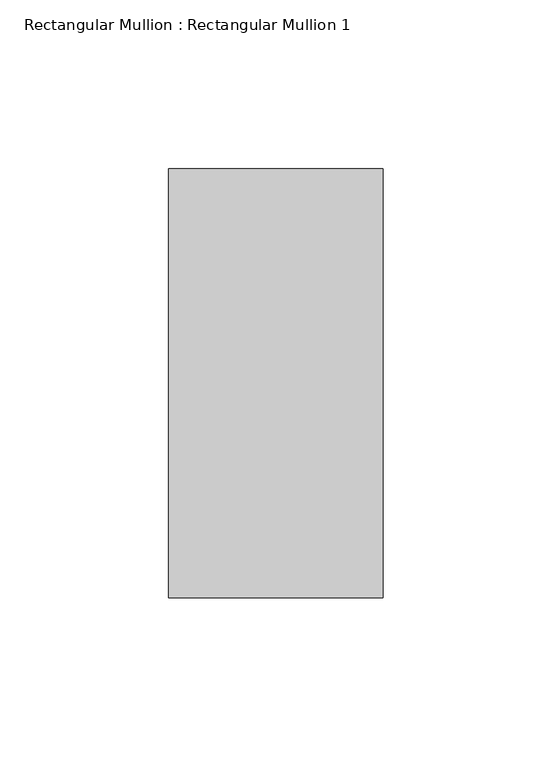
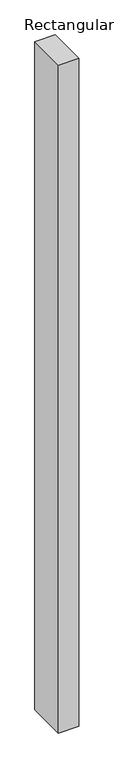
"""IFC4 building model written with IfcOpenShell, lengths in millimetres: member geometry, Rectangular Mullion : Rectangular Mullion 1."""

from ifc_helpers import new_model, si_unit, frame, origin, place, context, project, spatial, polyline, outline, extrude, source, transform, mapped, element, save


def rectangular_mullion_rectangular_mullion_1_0f371214(model_context):
    return source(origin(), model_context, "Body", "SweptSolid", [
        extrude(outline(polyline([(0.0, 63.5), (0.0, -63.5), (-63.5, -63.5), (-63.5, 63.5), (0.0, 63.5)])), frame((0.0, 0.0, -2200.0), z_axis=(0.0, 0.0, 1.0), x_axis=(1.0, 0.0, 0.0)), (0.0, 0.0, 1.0), 2200.0),
    ])


if __name__ == "__main__":
    model = new_model("IFC4")
    model_context = context("Model", 3, world=origin())
    ifc_project = project(units=[si_unit("LENGTHUNIT", "METRE", prefix="MILLI")], contexts=[model_context])
    site = spatial("IfcSite", under=ifc_project)
    building = spatial("IfcBuilding", under=site)
    placement = place(None, origin())
    rectangular_mullion_rectangular_mullion_1_shape = rectangular_mullion_rectangular_mullion_1_0f371214(model_context)
    element("IfcMember", 1, ObjectType="Rectangular Mullion : Rectangular Mullion 1", at=placement, inside=building, context=model_context, shape_type="MappedRepresentation", body=[
        mapped(rectangular_mullion_rectangular_mullion_1_shape, transform((0.0, 0.0, 0.0), x_axis=(1.0, 0.0, 0.0), y_axis=(0.0, 1.0, 0.0), z_axis=(0.0, 0.0, 1.0))),
    ])
    save(model, "model.ifc")
